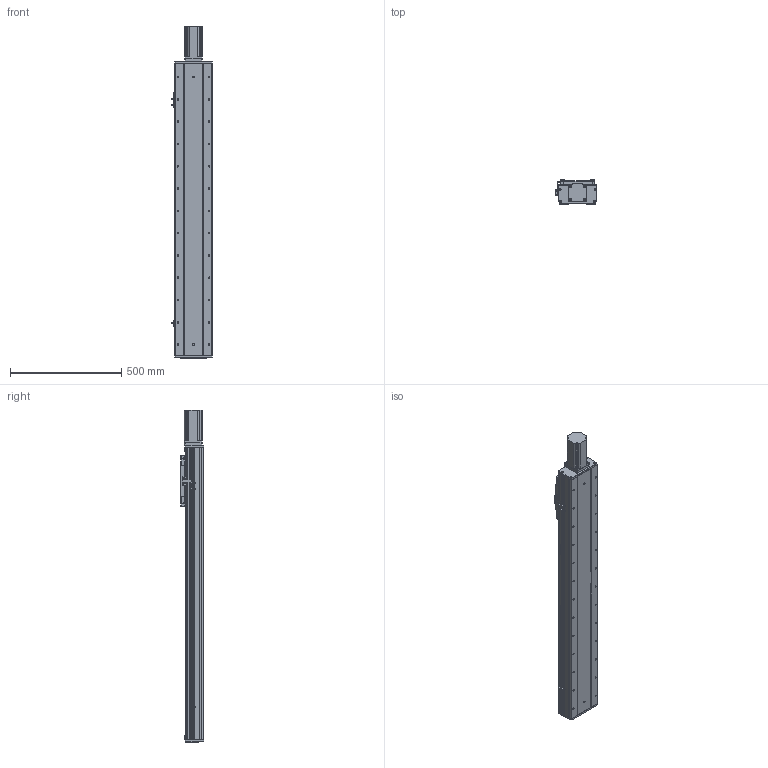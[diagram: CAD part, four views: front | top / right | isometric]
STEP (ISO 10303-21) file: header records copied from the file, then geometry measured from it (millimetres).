
FILE_DESCRIPTION (( 'STEP AP203' ), '1' );
FILE_NAME ('RY170F-L2020-300-MK.SLDASM_1000.step', '2021-03-02T06:31:50', ( '盈信电脑' ), ( '东莞市道滘镇水果街19号' ), 'SwSTEP 2.0', 'SolidWorks 2012', '' );
FILE_SCHEMA (( 'CONFIG_CONTROL_DESIGN' ));
Length unit declared in the file: millimetre
Products named in the file (22): RY170F-L2020-300-MK.SLDASM_1000; 覜茼ん674; 滅袉蝶18-24; 怢湛750W萇儂ㄗ80遺ㄘ; 侐源滅袉蝶; 750W萇儂梓袧蛌諉啣; RY170F-揤踡謫假蚾粣; 覜茼ん672; RY170F俋离覜茼え; RY170F-詩湍揤踡輸; RY100F-詩湍揤踡謫; RY170F-直连前盖板(铝件）; RY170F-后盖板(铝件）; 滅袉蝶18-10; RY170F-丝杆铝滑块连接板; 侂狟400W侜督萇儂; 15; RY170F-300眻蟀倰第奻裔啣-MK_1000; RY170F-滅鳥奻裔; RY170F-300眻蟀祥凄詩湍-MK_1000; RY170F-佪裝臏賑輸20蹟譫; RY170F-300眻蟀倰第菁釱-MK_1000
Assembly tree (26 placements, depth 3):
  RY170F-L2020-300-MK.SLDASM_1000
    RY170F-300眻蟀倰第菁釱-MK_1000
    RY170F-300眻蟀祥凄詩湍-MK_1000
    RY170F-300眻蟀倰第奻裔啣-MK_1000  x2
    RY170F-滅鳥奻裔
    RY170F-佪裝臏賑輸20蹟譫
    RY170F-丝杆铝滑块连接板
    侂狟400W侜督萇儂
      15
    RY170F-直连前盖板(铝件）
    滅袉蝶18-10
    RY100F-詩湍揤踡謫
    RY170F-后盖板(铝件）
    覜茼ん672  x3
    RY170F俋离覜茼え
    RY170F-揤踡謫假蚾粣
    RY170F-詩湍揤踡輸  x2
    滅袉蝶18-24
    750W萇儂梓袧蛌諉啣
    怢湛750W萇儂ㄗ80遺ㄘ
    侐源滅袉蝶  x2
    覜茼ん674
Bounding box: 183.7 x 107 x 1489 mm (x, y, z)
Volume: 7692778 mm3; surface area: 2436155.6 mm2
Topology: 25 solids, 25 shells, 2312 faces, 6359 edges, 4054 vertices
Faces by surface type: cylinder 1037, plane 1001, cone 256, bspline 18
Entity records: 67711 total; most frequent: CARTESIAN_POINT 13293, DIRECTION 11165, ORIENTED_EDGE 10622, EDGE_CURVE 5311, AXIS2_PLACEMENT_3D 3992, VERTEX_POINT 3474, LINE 3181, VECTOR 3181
